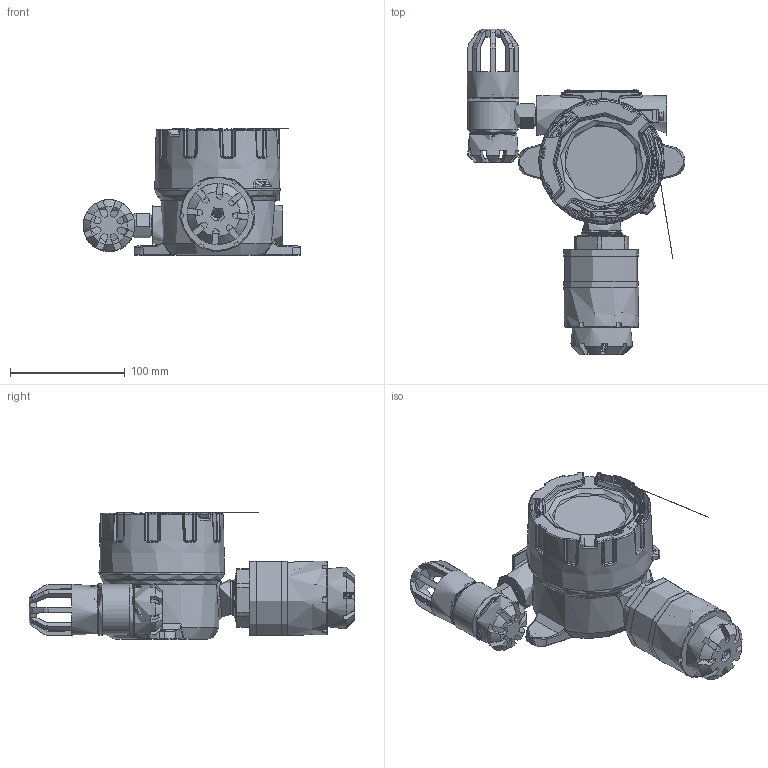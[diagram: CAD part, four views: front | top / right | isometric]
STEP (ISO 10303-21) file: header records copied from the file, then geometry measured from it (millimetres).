
FILE_DESCRIPTION(('STEP AP214'), '1');
FILE_NAME('ÄÃÑ Ýðèñ-210_Êîðïóñ', '', ('UNSPECIFIED'), ('UNSPECIFIED'), 'ASCON STEP Converter 1.3', 'ASCON Math Kernel', '');
FILE_SCHEMA(('AUTOMOTIVE_DESIGN { 1 0 10303 214 3 1 1}'));
Length unit declared in the file: millimetre
Products named in the file (24): korpus XD-I-obrobka - KU12-15; USZCZELKA XD-I ; podklladka PTN-1,5; podkl. M4; wkret PTN-1,5; podkladka. ET4; podkl. M5; wkret ETN-4; L4357- Pokrywa XD-ILwin - obrobka - napis w j.rosyjskim - ku13-16; L1652.1; L2239-piersc W95x3.; wkrêt blok M3; 橾迕.413216.210.06.01-06; jin75D2nz67; 橾迕.413216.210.12; 橾迕.413216.020 捘; 橾迕.413216.001.10.01-01; Êðûøêà; 扻豵鵨4; Êîëïà÷åê àëþìèíèåâûé
Assembly tree (24 placements, depth 3):
  (unnamed)
    (unnamed)
      korpus XD-I-obrobka - KU12-15
      USZCZELKA XD-I 
      podklladka PTN-1,5
      podkl. M4
      wkret PTN-1,5
      podkladka. ET4
      podkl. M5
      wkret ETN-4
    (unnamed)
      L4357- Pokrywa XD-ILwin - obrobka - napis w j.rosyjskim - ku13-16
      L1652.1
      L2239-piersc W95x3.
      wkrêt blok M3
    橾迕.413216.210.06.01-06
    jin75D2nz67
    橾迕.413216.210.12
    (unnamed)  x2
    橾迕.413216.020 捘
      橾迕.413216.001.10.01-01
      Êðûøêà
      扻豵鵨4
      Êîëïà÷åê àëþìèíèåâûé
Bounding box: 189.75 x 284.05 x 110.4 mm (x, y, z)
Volume: 294486.8 mm3; surface area: 259237.4 mm2
Topology: 19 solids, 21 shells, 4486 faces, 12347 edges, 7918 vertices
Faces by surface type: plane 2089, extrusion 1417, cylinder 313, bspline 306, cone 168, torus 123, sphere 70
Full cylindrical faces by diameter (mm): 0.75 x12, 2 x7, 2.459 x11, 2.5 x2, 2.6 x1, 2.8 x1, 3 x1, 3.242 x1, 3.5 x2, 3.6 x3, 3.9 x1, 4 x1, 4.1 x1, 4.134 x1, 4.5 x1, 4.9 x1, 5 x1, 5.1 x1, 6 x1, 7 x1, 7.28 x1, 7.95 x8, 8.28 x1, 8.4 x1, 10 x1, 10.106 x1, 15 x1, 16 x2, 17 x1, 18.376 x3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
Entity records: 207843 total; most frequent: CARTESIAN_POINT 68216, ORIENTED_EDGE 23220, DIRECTION 15837, EDGE_CURVE 11610, VECTOR 7825, VERTEX_POINT 7734, LINE 6408, B_SPLINE_CURVE_WITH_KNOTS 5390
